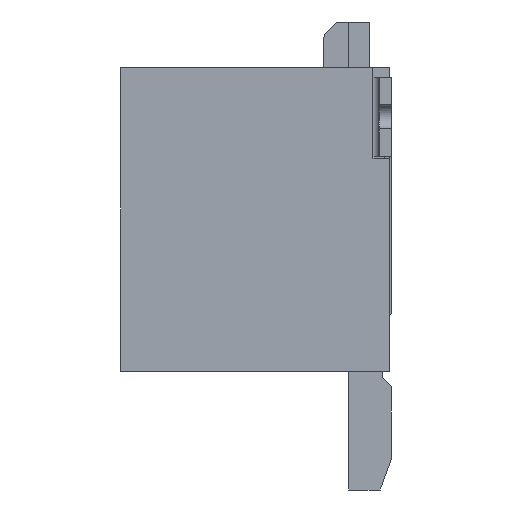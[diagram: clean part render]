
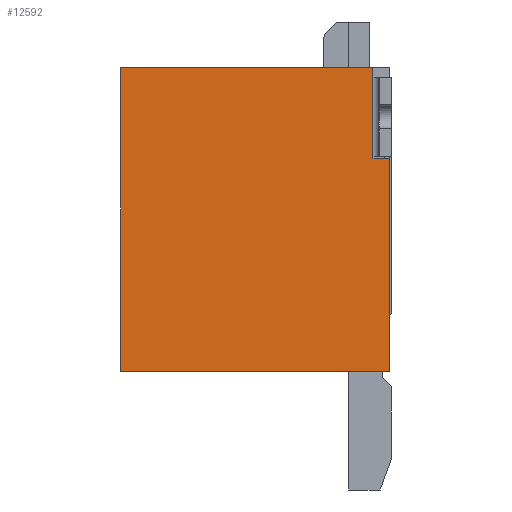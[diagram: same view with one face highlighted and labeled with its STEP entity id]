
A CAD part, left-side view. The second image highlights one B-rep face of the part: STEP entity #12592.
In plain terms, the highlighted planar face has unit normal (-1, 0, 0).
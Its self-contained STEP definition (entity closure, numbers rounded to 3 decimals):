
#917=DIRECTION('',(0.,0.,1.));
#918=VECTOR('',#917,3.5);
#919=CARTESIAN_POINT('',(-6.4,0.03,-5.75));
#920=LINE('',#919,#918);
#921=DIRECTION('',(0.,0.,-1.));
#922=VECTOR('',#921,5.);
#923=CARTESIAN_POINT('',(-6.4,4.45,-0.75));
#924=LINE('',#923,#922);
#925=DIRECTION('',(0.,1.,0.));
#926=VECTOR('',#925,4.15);
#927=CARTESIAN_POINT('',(-6.4,0.3,-0.75));
#928=LINE('',#927,#926);
#929=DIRECTION('',(0.,1.,0.));
#930=VECTOR('',#929,0.27);
#931=CARTESIAN_POINT('',(-6.4,0.03,-2.25));
#932=LINE('',#931,#930);
#945=DIRECTION('',(0.,-1.,0.));
#946=VECTOR('',#945,4.42);
#947=CARTESIAN_POINT('',(-6.4,4.45,-5.75));
#948=LINE('',#947,#946);
#7773=DIRECTION('',(0.,0.,1.));
#7774=VECTOR('',#7773,1.5);
#7775=CARTESIAN_POINT('',(-6.4,0.3,-2.25));
#7776=LINE('',#7775,#7774);
#9705=CARTESIAN_POINT('',(-6.4,4.45,-0.75));
#9707=VERTEX_POINT('',#9705);
#9709=CARTESIAN_POINT('',(-6.4,4.45,-5.75));
#9710=VERTEX_POINT('',#9709);
#9813=CARTESIAN_POINT('',(-6.4,0.3,-0.75));
#9814=VERTEX_POINT('',#9813);
#9825=CARTESIAN_POINT('',(-6.4,0.03,-2.25));
#9827=VERTEX_POINT('',#9825);
#9839=CARTESIAN_POINT('',(-6.4,0.03,-5.75));
#9840=VERTEX_POINT('',#9839);
#9857=CARTESIAN_POINT('',(-6.4,0.3,-2.25));
#9858=VERTEX_POINT('',#9857);
#12576=CARTESIAN_POINT('',(-6.4,2.24,-3.25));
#12577=DIRECTION('',(1.,0.,0.));
#12578=DIRECTION('',(0.,0.,1.));
#12579=AXIS2_PLACEMENT_3D('',#12576,#12577,#12578);
#12580=PLANE('',#12579);
#12581=ORIENTED_EDGE('',*,*,#12556,.F.);
#12583=ORIENTED_EDGE('',*,*,#12582,.F.);
#12585=ORIENTED_EDGE('',*,*,#12584,.F.);
#12586=ORIENTED_EDGE('',*,*,#12479,.F.);
#12588=ORIENTED_EDGE('',*,*,#12587,.F.);
#12589=ORIENTED_EDGE('',*,*,#12567,.F.);
#12590=EDGE_LOOP('',(#12581,#12583,#12585,#12586,#12588,#12589));
#12591=FACE_OUTER_BOUND('',#12590,.F.);
#12592=ADVANCED_FACE('',(#12591),#12580,.F.);
#12479=EDGE_CURVE('',#9814,#9707,#928,.T.);
#12556=EDGE_CURVE('',#9840,#9827,#920,.T.);
#12567=EDGE_CURVE('',#9827,#9858,#932,.T.);
#12582=EDGE_CURVE('',#9710,#9840,#948,.T.);
#12584=EDGE_CURVE('',#9707,#9710,#924,.T.);
#12587=EDGE_CURVE('',#9858,#9814,#7776,.T.);
